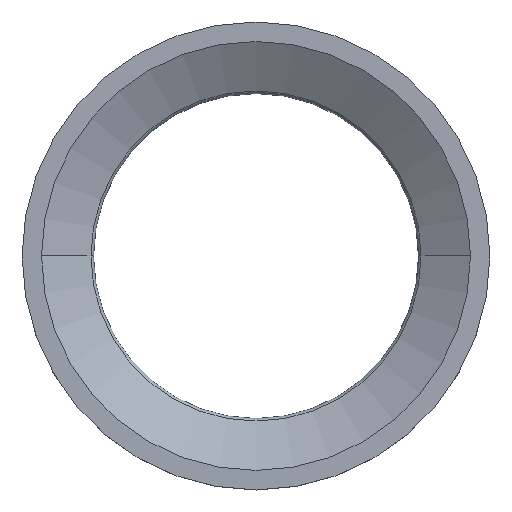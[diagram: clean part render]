
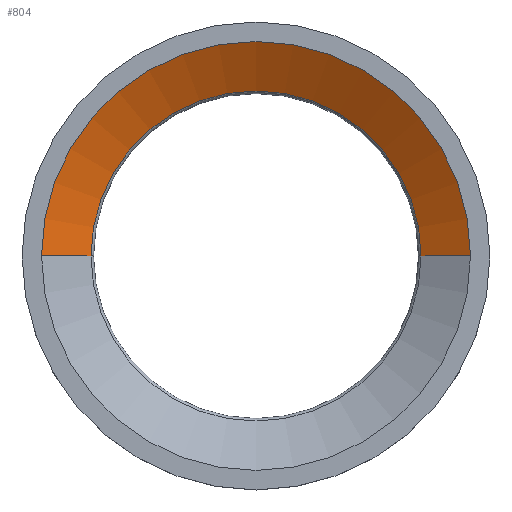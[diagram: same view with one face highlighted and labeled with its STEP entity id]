
A CAD part, top view. The second image highlights one B-rep face of the part: STEP entity #804.
In plain terms, the highlighted conical face has half-angle 60 degrees and reference radius 73 mm.
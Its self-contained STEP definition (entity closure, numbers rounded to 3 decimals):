
#112=DIRECTION('',(-0.866,0.,-0.5));
#113=VECTOR('',#112,21.939);
#114=CARTESIAN_POINT('',(82.5,0.,25.));
#115=LINE('',#114,#113);
#116=CARTESIAN_POINT('',(0.,0.,14.03));
#117=DIRECTION('',(0.,0.,1.));
#118=DIRECTION('',(1.,0.,0.));
#119=AXIS2_PLACEMENT_3D('',#116,#117,#118);
#121=DIRECTION('',(0.866,0.,-0.5));
#122=VECTOR('',#121,21.939);
#123=CARTESIAN_POINT('',(-82.5,0.,
25.));
#124=LINE('',#123,#122);
#140=CARTESIAN_POINT('',(0.,0.,25.));
#141=DIRECTION('',(0.,0.,-1.));
#142=DIRECTION('',(-1.,0.,0.));
#143=AXIS2_PLACEMENT_3D('',#140,#141,#142);
#519=CARTESIAN_POINT('',(82.5,0.,
25.));
#520=CARTESIAN_POINT('',(-82.5,0.,25.));
#521=VERTEX_POINT('',#519);
#522=VERTEX_POINT('',#520);
#527=CARTESIAN_POINT('',(-63.5,0.,
14.03));
#528=CARTESIAN_POINT('',(63.5,0.,14.03));
#529=VERTEX_POINT('',#527);
#530=VERTEX_POINT('',#528);
#792=CARTESIAN_POINT('',(0.,0.,19.515));
#793=DIRECTION('',(0.,0.,1.));
#794=DIRECTION('',(0.,-1.,0.));
#795=AXIS2_PLACEMENT_3D('',#792,#793,#794);
#796=CONICAL_SURFACE('',#795,73.,60.);
#797=ORIENTED_EDGE('',*,*,#757,.T.);
#798=ORIENTED_EDGE('',*,*,#787,.F.);
#800=ORIENTED_EDGE('',*,*,#799,.T.);
#801=ORIENTED_EDGE('',*,*,#783,.T.);
#802=EDGE_LOOP('',(#797,#798,#800,#801));
#803=FACE_OUTER_BOUND('',#802,.F.);
#120=CIRCLE('',#119,63.5);
#144=CIRCLE('',#143,82.5);
#757=EDGE_CURVE('',#530,#529,#120,.T.);
#783=EDGE_CURVE('',#521,#530,#115,.T.);
#787=EDGE_CURVE('',#522,#529,#124,.T.);
#799=EDGE_CURVE('',#522,#521,#144,.T.);
#804=ADVANCED_FACE('',(#803),#796,.F.);
